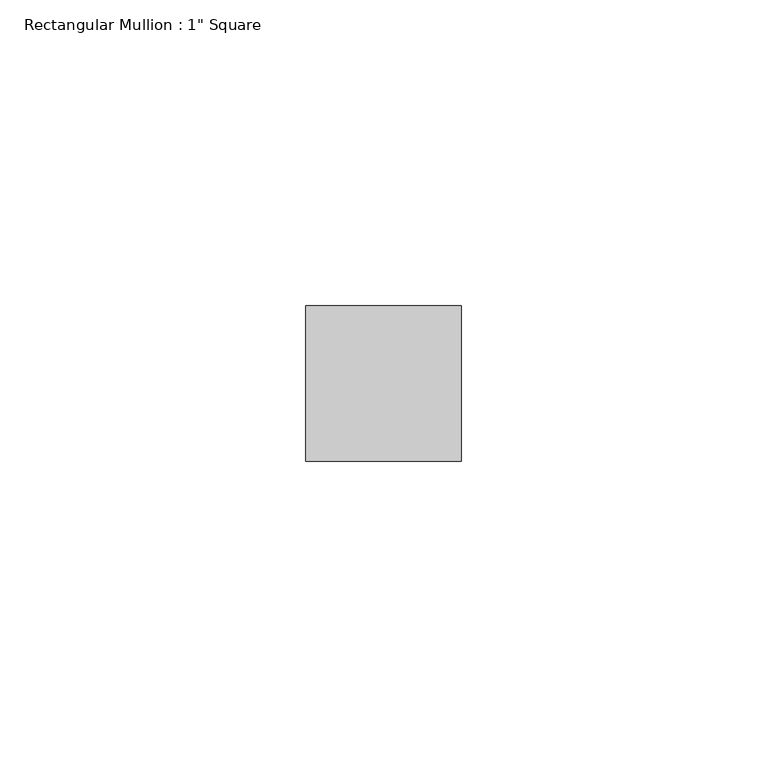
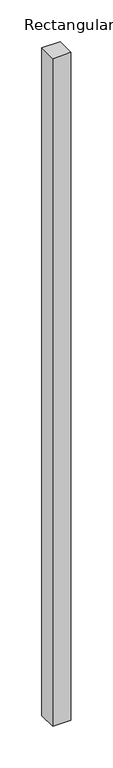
"""IFC4 building model written with IfcOpenShell, lengths in millimetres: member geometry."""

from ifc_helpers import new_model, si_unit, frame, origin, place, context, project, spatial, polyline, outline, extrude, source, transform, mapped, element, save


def member_04fa56c0(model_context):
    return source(origin(), model_context, "Body", "SweptSolid", [
        extrude(outline(polyline([(12.7, 12.7), (12.7, -12.7), (-12.7, -12.7), (-12.7, 12.7), (12.7, 12.7)])), frame((0.0, 0.0, -973.075286), z_axis=(0.0, 0.0, 1.0), x_axis=(1.0, 0.0, 0.0)), (0.0, 0.0, 1.0), 973.075286),
    ])


if __name__ == "__main__":
    model = new_model("IFC4")
    model_context = context("Model", 3, world=origin())
    ifc_project = project(units=[si_unit("LENGTHUNIT", "METRE", prefix="MILLI")], contexts=[model_context])
    site = spatial("IfcSite", under=ifc_project)
    building = spatial("IfcBuilding", under=site)
    placement = place(None, origin())
    member_shape = member_04fa56c0(model_context)
    element("IfcMember", 1, ObjectType="Rectangular Mullion : 1\" Square", at=placement, inside=building, context=model_context, shape_type="MappedRepresentation", body=[
        mapped(member_shape, transform((0.0, 0.0, 0.0), x_axis=(1.0, 0.0, 0.0), y_axis=(0.0, 1.0, 0.0), z_axis=(0.0, 0.0, 1.0))),
    ])
    save(model, "model.ifc")
